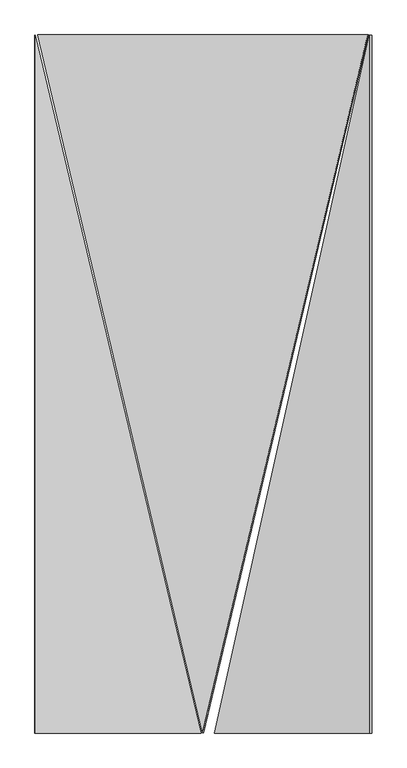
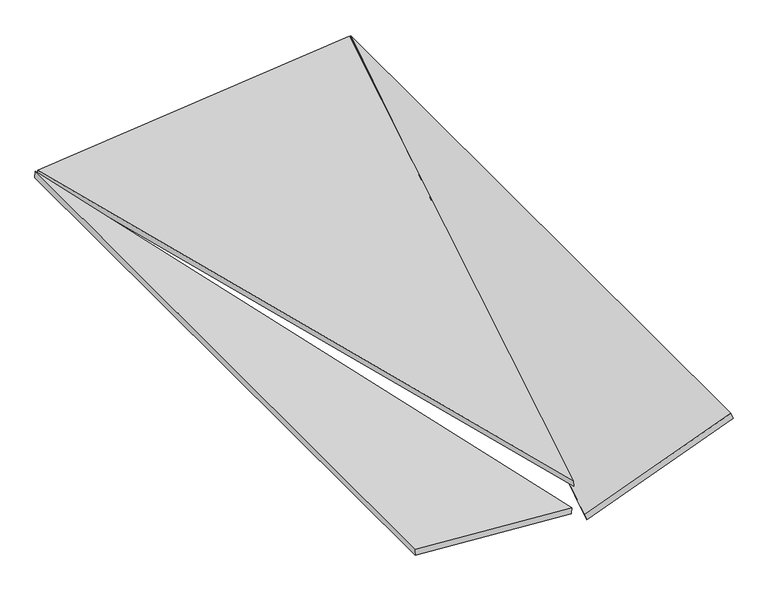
"""IFC4 building model written with IfcOpenShell, lengths in millimetres: proxy geometry, panel sufitowy 6 : panel sufitowy 6."""

from ifc_helpers import new_model, si_unit, frame, origin, place, context, project, spatial, polyline, outline, extrude, source, transform, mapped, element, save


def generic_models_ba33a975(model_context):
    return source(origin(), model_context, "Body", "SweptSolid", [
        extrude(outline(polyline([(-900.9098917, 0.0), (1235.4098448, 1e-07), (1006.1909889, -962.7191946), (-900.9098917, 0.0)])), frame((550.6791057, -1457.4151922, 1242.4313376), z_axis=(-0.10452846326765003, 0.0, 0.9945218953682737), x_axis=(-0.2303516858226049, 0.9728062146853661, -0.024210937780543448)), (0.0, 0.0, 1.0), 20.0),
        extrude(outline(polyline([(-127.5, 0.0), (-622.5, 0.0), (-127.5, 2079.0), (-127.5, 0.0)])), frame((1379.1922713, -2335.0, 1362.6927786), z_axis=(-0.3583679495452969, 0.0, 0.9335804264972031), x_axis=(0.9335804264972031, 0.0, 0.3583679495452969)), (0.0, 0.0, 1.0), 20.0),
        extrude(outline(polyline([(-127.5, 0.0), (-127.5, -2079.0), (-622.5, 0.0), (-127.5, 0.0)])), frame((128.5042362, -2335.0, 1220.3210675), z_axis=(0.06975647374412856, 0.0, 0.9975640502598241), x_axis=(-0.9975640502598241, 0.0, 0.06975647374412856)), (0.0, 0.0, 1.0), 20.0),
    ])


if __name__ == "__main__":
    model = new_model("IFC4")
    model_context = context("Model", 3, world=origin())
    ifc_project = project(units=[si_unit("LENGTHUNIT", "METRE", prefix="MILLI")], contexts=[model_context])
    site = spatial("IfcSite", under=ifc_project)
    building = spatial("IfcBuilding", under=site)
    placement = place(None, origin())
    generic_models_shape = generic_models_ba33a975(model_context)
    element("IfcBuildingElementProxy", 1, Name="panel sufitowy 6 : panel sufitowy 6", ObjectType="panel sufitowy 6 : panel sufitowy 6", at=placement, inside=building, context=model_context, shape_type="MappedRepresentation", body=[
        mapped(generic_models_shape, transform((0.0, 0.0, 0.0), x_axis=(1.0, 0.0, 0.0), y_axis=(0.0, 1.0, 0.0), z_axis=(0.0, 0.0, 1.0))),
    ])
    save(model, "model.ifc")
